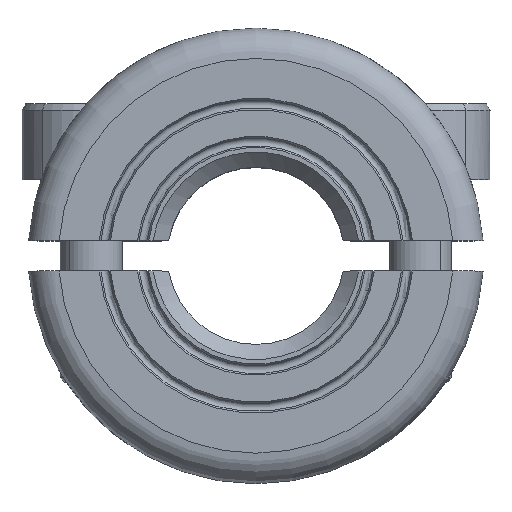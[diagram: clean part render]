
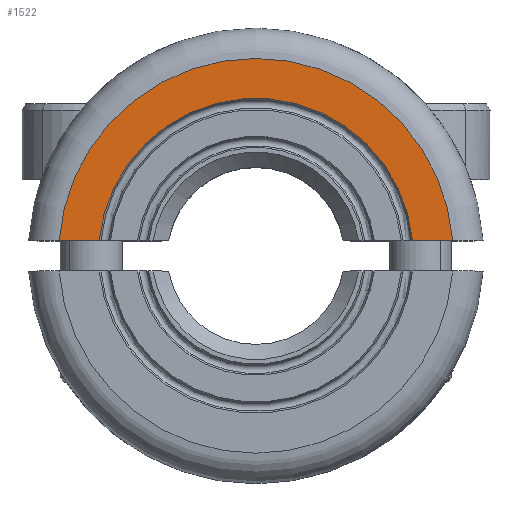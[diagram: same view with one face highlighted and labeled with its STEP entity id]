
A CAD part, top view. The second image highlights one B-rep face of the part: STEP entity #1522.
In plain terms, the highlighted planar face has unit normal (0, 0, 1).
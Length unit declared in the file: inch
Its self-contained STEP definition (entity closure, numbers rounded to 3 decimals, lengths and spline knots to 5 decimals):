
#129=CARTESIAN_POINT('',(0.30618,0.02362,0.35433));
#287=DIRECTION('',(-1.,0.,0.));
#288=VECTOR('',#287,0.06244);
#289=CARTESIAN_POINT('',(-0.24374,0.02362,
0.35433));
#290=LINE('',#289,#288);
#396=CARTESIAN_POINT('',(0.,0.,0.35433));
#397=DIRECTION('',(0.,0.,1.));
#398=DIRECTION('',(0.997,0.077,0.));
#399=AXIS2_PLACEMENT_3D('',#396,#397,#398);
#401=DIRECTION('',(1.,0.,0.));
#402=VECTOR('',#401,0.06244);
#403=CARTESIAN_POINT('',(0.24374,0.02362,
0.35433));
#404=LINE('',#403,#402);
#410=CARTESIAN_POINT('',(0.,0.,0.35433));
#411=DIRECTION('',(0.,0.,-1.));
#412=DIRECTION('',(-0.995,0.096,0.));
#413=AXIS2_PLACEMENT_3D('',#410,#411,#412);
#901=VERTEX_POINT('',#129);
#948=CARTESIAN_POINT('',(-0.24374,0.02362,
0.35433));
#949=CARTESIAN_POINT('',(-0.30618,0.02362,0.35433));
#950=VERTEX_POINT('',#948);
#951=VERTEX_POINT('',#949);
#952=CARTESIAN_POINT('',(0.24374,0.02362,
0.35433));
#953=VERTEX_POINT('',#952);
#1510=CARTESIAN_POINT('',(0.,0.,0.35433));
#1511=DIRECTION('',(0.,0.,1.));
#1512=DIRECTION('',(0.707,-0.707,0.));
#1513=AXIS2_PLACEMENT_3D('',#1510,#1511,#1512);
#1514=PLANE('',#1513);
#1516=ORIENTED_EDGE('',*,*,#1515,.F.);
#1517=ORIENTED_EDGE('',*,*,#1476,.T.);
#1518=ORIENTED_EDGE('',*,*,#1154,.F.);
#1519=ORIENTED_EDGE('',*,*,#1177,.F.);
#1520=EDGE_LOOP('',(#1516,#1517,#1518,#1519));
#1521=FACE_OUTER_BOUND('',#1520,.F.);
#400=CIRCLE('',#399,0.30709);
#414=CIRCLE('',#413,0.24488);
#1154=EDGE_CURVE('',#901,#951,#400,.T.);
#1177=EDGE_CURVE('',#953,#901,#404,.T.);
#1476=EDGE_CURVE('',#950,#951,#290,.T.);
#1515=EDGE_CURVE('',#950,#953,#414,.T.);
#1522=ADVANCED_FACE('',(#1521),#1514,.T.);
